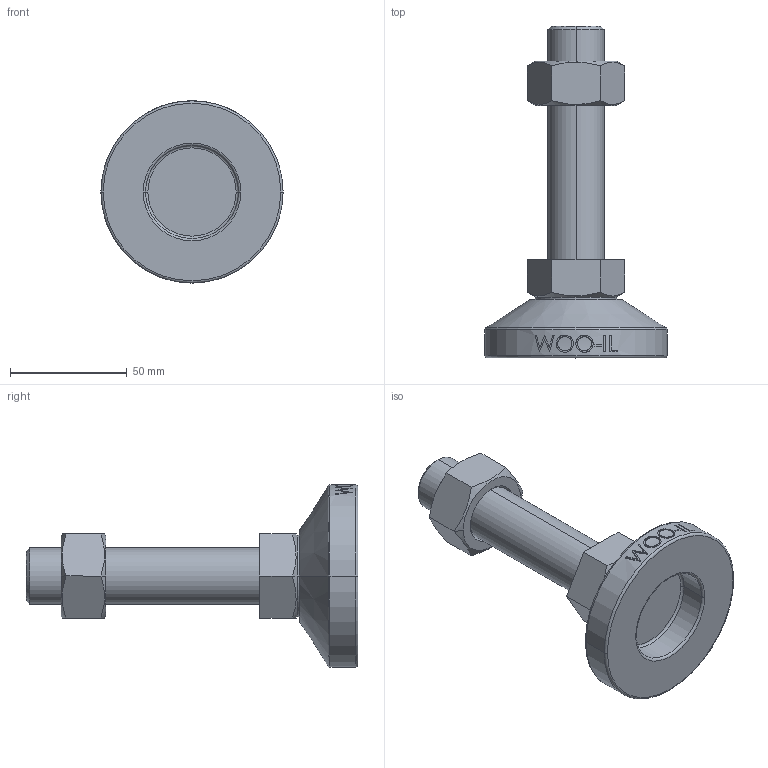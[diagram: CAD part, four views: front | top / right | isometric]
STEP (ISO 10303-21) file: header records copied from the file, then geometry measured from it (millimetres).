
FILE_DESCRIPTION (( 'STEP AP214' ), '1' );
FILE_NAME ('MF78-M24-100.step', '2021-02-03T08:22:11', ( '' ), ( '' ), 'SwSTEP 2.0', 'SolidWorks 2019', '' );
FILE_SCHEMA (( 'AUTOMOTIVE_DESIGN' ));
Length unit declared in the file: millimetre
Products named in the file (2): MF78-M24-100
Bounding box: 78 x 142 x 78 mm (x, y, z)
Volume: 155342.8 mm3; surface area: 31254.5 mm2
Topology: 3 solids, 3 shells, 106 faces, 243 edges, 154 vertices
Faces by surface type: plane 48, cylinder 18, bspline 16, cone 14, torus 10
Entity records: 4556 total; most frequent: CARTESIAN_POINT 2213, ORIENTED_EDGE 486, DIRECTION 439, EDGE_CURVE 243, AXIS2_PLACEMENT_3D 170, VERTEX_POINT 154, EDGE_LOOP 119, FACE_OUTER_BOUND 106
